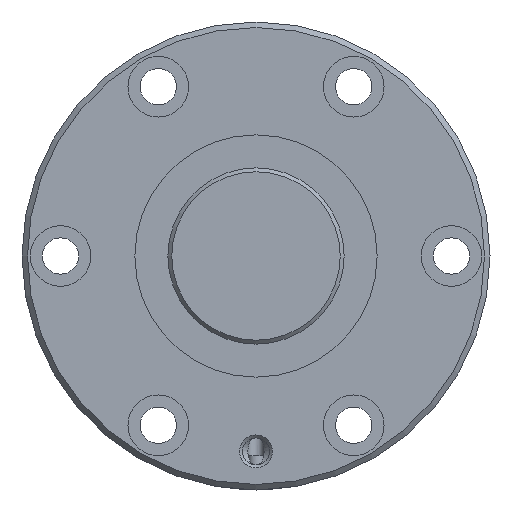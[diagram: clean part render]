
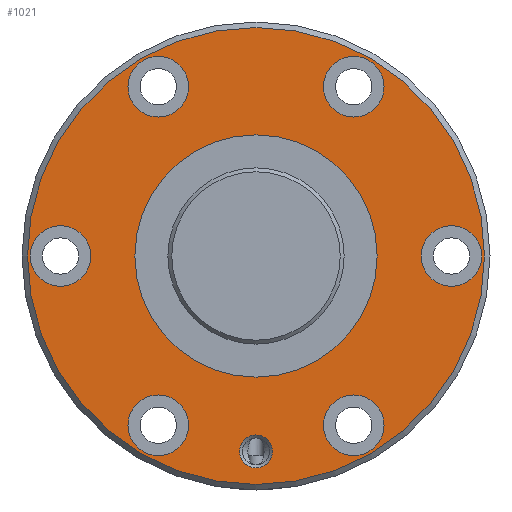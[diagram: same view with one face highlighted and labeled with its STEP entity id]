
A CAD part, left-side view. The second image highlights one B-rep face of the part: STEP entity #1021.
In plain terms, the highlighted planar face has unit normal (-1, 0, 0).
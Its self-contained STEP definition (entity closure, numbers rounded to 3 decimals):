
#162=ORIENTED_EDGE('',*,*,#385,.T.);
#163=ORIENTED_EDGE('',*,*,#386,.T.);
#164=ORIENTED_EDGE('',*,*,#387,.T.);
#165=ORIENTED_EDGE('',*,*,#388,.T.);
#166=ORIENTED_EDGE('',*,*,#389,.T.);
#167=ORIENTED_EDGE('',*,*,#390,.T.);
#168=ORIENTED_EDGE('',*,*,#391,.T.);
#169=ORIENTED_EDGE('',*,*,#392,.T.);
#170=ORIENTED_EDGE('',*,*,#384,.F.);
#384=EDGE_CURVE('',#499,#499,#593,.T.);
#385=EDGE_CURVE('',#500,#500,#594,.T.);
#386=EDGE_CURVE('',#501,#501,#595,.F.);
#387=EDGE_CURVE('',#502,#502,#596,.T.);
#388=EDGE_CURVE('',#503,#503,#597,.T.);
#389=EDGE_CURVE('',#504,#504,#598,.T.);
#390=EDGE_CURVE('',#505,#505,#599,.T.);
#391=EDGE_CURVE('',#506,#506,#600,.T.);
#392=EDGE_CURVE('',#507,#507,#601,.T.);
#499=VERTEX_POINT('',#1708);
#500=VERTEX_POINT('',#1711);
#501=VERTEX_POINT('',#1713);
#502=VERTEX_POINT('',#1715);
#503=VERTEX_POINT('',#1717);
#504=VERTEX_POINT('',#1719);
#505=VERTEX_POINT('',#1721);
#506=VERTEX_POINT('',#1723);
#507=VERTEX_POINT('',#1725);
#593=CIRCLE('',#1136,41.5);
#594=CIRCLE('',#1138,22.);
#595=CIRCLE('',#1139,5.5);
#596=CIRCLE('',#1140,3.);
#597=CIRCLE('',#1141,5.5);
#598=CIRCLE('',#1142,5.5);
#599=CIRCLE('',#1143,5.5);
#600=CIRCLE('',#1144,5.5);
#601=CIRCLE('',#1145,5.5);
#682=EDGE_LOOP('',(#162));
#683=EDGE_LOOP('',(#163));
#684=EDGE_LOOP('',(#164));
#685=EDGE_LOOP('',(#165));
#686=EDGE_LOOP('',(#166));
#687=EDGE_LOOP('',(#167));
#688=EDGE_LOOP('',(#168));
#689=EDGE_LOOP('',(#169));
#690=EDGE_LOOP('',(#170));
#842=FACE_BOUND('',#682,.T.);
#843=FACE_BOUND('',#683,.T.);
#844=FACE_BOUND('',#684,.T.);
#845=FACE_BOUND('',#685,.T.);
#846=FACE_BOUND('',#686,.T.);
#847=FACE_BOUND('',#687,.T.);
#848=FACE_BOUND('',#688,.T.);
#849=FACE_BOUND('',#689,.T.);
#850=FACE_BOUND('',#690,.T.);
#984=PLANE('',#1137);
#1021=ADVANCED_FACE('',(#842,#843,#844,#845,#846,#847,#848,#849,#850),#984,
 .T.);
#1136=AXIS2_PLACEMENT_3D('',#1707,#1322,#1323);
#1137=AXIS2_PLACEMENT_3D('',#1709,#1324,#1325);
#1138=AXIS2_PLACEMENT_3D('',#1710,#1326,#1327);
#1139=AXIS2_PLACEMENT_3D('',#1712,#1328,#1329);
#1140=AXIS2_PLACEMENT_3D('',#1714,#1330,#1331);
#1141=AXIS2_PLACEMENT_3D('',#1716,#1332,#1333);
#1142=AXIS2_PLACEMENT_3D('',#1718,#1334,#1335);
#1143=AXIS2_PLACEMENT_3D('',#1720,#1336,#1337);
#1144=AXIS2_PLACEMENT_3D('',#1722,#1338,#1339);
#1145=AXIS2_PLACEMENT_3D('',#1724,#1340,#1341);
#1322=DIRECTION('',(1.,0.,0.));
#1323=DIRECTION('',(0.,0.,-1.));
#1324=DIRECTION('',(-1.,0.,0.));
#1325=DIRECTION('',(0.,0.,1.));
#1326=DIRECTION('',(1.,0.,0.));
#1327=DIRECTION('',(0.,0.,-1.));
#1328=DIRECTION('',(-1.,0.,0.));
#1329=DIRECTION('',(0.,0.,1.));
#1330=DIRECTION('',(1.,0.,0.));
#1331=DIRECTION('',(0.,0.,-1.));
#1332=DIRECTION('',(1.,0.,0.));
#1333=DIRECTION('',(0.,0.,-1.));
#1334=DIRECTION('',(1.,0.,0.));
#1335=DIRECTION('',(0.,0.,-1.));
#1336=DIRECTION('',(1.,0.,0.));
#1337=DIRECTION('',(0.,0.,-1.));
#1338=DIRECTION('',(1.,0.,0.));
#1339=DIRECTION('',(0.,0.,-1.));
#1340=DIRECTION('',(1.,0.,0.));
#1341=DIRECTION('',(0.,0.,-1.));
#1707=CARTESIAN_POINT('',(0.,0.,0.));
#1708=CARTESIAN_POINT('',(0.,0.,-41.5));
#1709=CARTESIAN_POINT('',(0.,41.5,0.));
#1710=CARTESIAN_POINT('',(0.,0.,0.));
#1711=CARTESIAN_POINT('',(0.,0.,-22.));
#1712=CARTESIAN_POINT('',(0.,35.5,0.));
#1713=CARTESIAN_POINT('',(0.,35.5,5.5));
#1714=CARTESIAN_POINT('',(0.,0.,-35.5));
#1715=CARTESIAN_POINT('',(0.,0.,-38.5));
#1716=CARTESIAN_POINT('',(0.,-35.5,0.));
#1717=CARTESIAN_POINT('',(0.,-35.5,-5.5));
#1718=CARTESIAN_POINT('',(0.,17.75,30.744));
#1719=CARTESIAN_POINT('',(0.,17.75,25.244));
#1720=CARTESIAN_POINT('',(0.,-17.75,-30.744));
#1721=CARTESIAN_POINT('',(0.,-17.75,-36.244));
#1722=CARTESIAN_POINT('',(0.,-17.75,30.744));
#1723=CARTESIAN_POINT('',(0.,-17.75,25.244));
#1724=CARTESIAN_POINT('',(0.,17.75,-30.744));
#1725=CARTESIAN_POINT('',(0.,17.75,-36.244));
